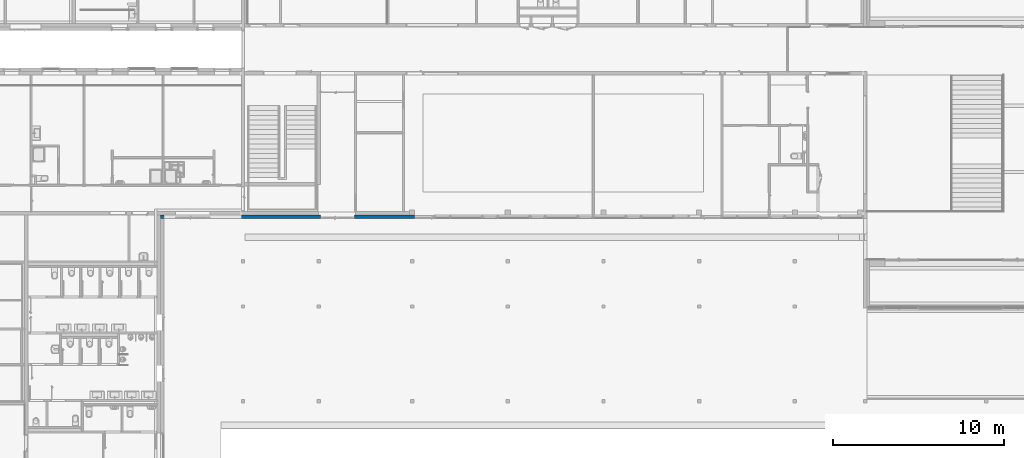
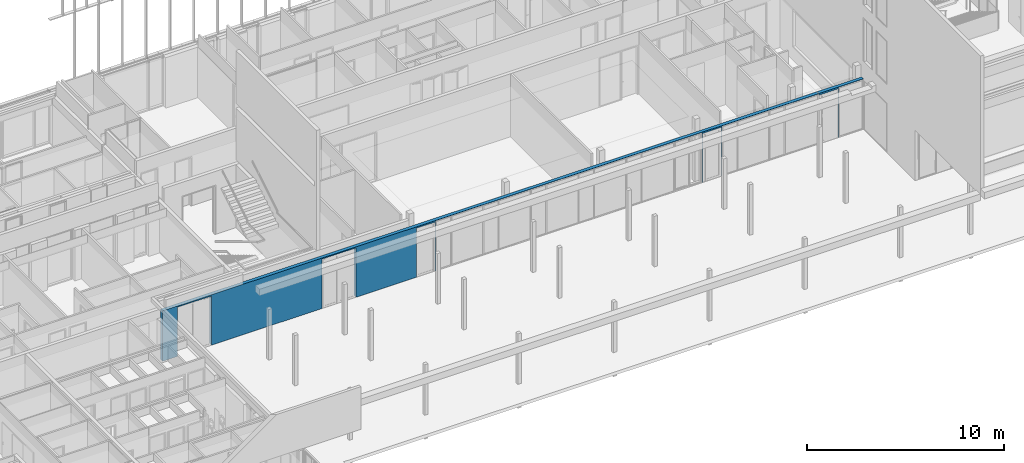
# One storey, part 127 of 240: 1 wall, 16 openings.
"""IFC2X3 building model written with IfcOpenShell, lengths in centimetres."""

from ifc_helpers import new_model, entity, si_unit, converted_unit, derived_unit, direction, frame, frame_2d, origin, origin_2d_with_axis, place, context, subcontext, project, spatial, rectangle, extrude, faceted_brep, material, layer, layer_set, layer_usage, type_object, element, save


model = new_model("IFC2X3")

# Units and contexts
model_context = context("Model", 3, precision=0.001, world=origin(), true_north=direction((6.12303176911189e-17, 1.0)))
body_context = subcontext(model_context, "Body", "Model", "MODEL_VIEW")
ifc_project = project(units=[si_unit("LENGTHUNIT", "METRE", prefix="CENTI"), si_unit("AREAUNIT", "SQUARE_METRE"), si_unit("VOLUMEUNIT", "CUBIC_METRE"), converted_unit("PLANEANGLEUNIT", "DEGREE", entity("IfcRatioMeasure", 0.0174532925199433), si_unit("PLANEANGLEUNIT", "RADIAN"), dimensions=[0, 0, 0, 0, 0, 0, 0]), si_unit("MASSUNIT", "GRAM", prefix="KILO"), derived_unit("MASSDENSITYUNIT", [(si_unit("MASSUNIT", "GRAM", prefix="KILO"), 1), (si_unit("LENGTHUNIT", "METRE"), -3)]), si_unit("TIMEUNIT", "SECOND"), si_unit("FREQUENCYUNIT", "HERTZ"), si_unit("THERMODYNAMICTEMPERATUREUNIT", "DEGREE_CELSIUS"), derived_unit("THERMALTRANSMITTANCEUNIT", [(si_unit("MASSUNIT", "GRAM", prefix="KILO"), 1), (si_unit("THERMODYNAMICTEMPERATUREUNIT", "KELVIN"), -1), (si_unit("TIMEUNIT", "SECOND"), -3)]), derived_unit("VOLUMETRICFLOWRATEUNIT", [(si_unit("LENGTHUNIT", "METRE"), 3), (si_unit("TIMEUNIT", "SECOND"), -1)]), si_unit("ELECTRICCURRENTUNIT", "AMPERE"), si_unit("ELECTRICVOLTAGEUNIT", "VOLT"), si_unit("POWERUNIT", "WATT"), si_unit("FORCEUNIT", "NEWTON", prefix="KILO"), si_unit("ILLUMINANCEUNIT", "LUX"), si_unit("LUMINOUSFLUXUNIT", "LUMEN"), si_unit("LUMINOUSINTENSITYUNIT", "CANDELA"), derived_unit("USERDEFINED", [(si_unit("MASSUNIT", "GRAM", prefix="KILO"), -1), (si_unit("LENGTHUNIT", "METRE"), -2), (si_unit("TIMEUNIT", "SECOND"), 3), (si_unit("LUMINOUSFLUXUNIT", "LUMEN"), 1)]), derived_unit("LINEARVELOCITYUNIT", [(si_unit("LENGTHUNIT", "METRE"), 1), (si_unit("TIMEUNIT", "SECOND"), -1)]), si_unit("PRESSUREUNIT", "PASCAL"), derived_unit("USERDEFINED", [(si_unit("LENGTHUNIT", "METRE"), -2), (si_unit("MASSUNIT", "GRAM", prefix="KILO"), 1), (si_unit("TIMEUNIT", "SECOND"), -2)])], contexts=[model_context])

# Site, building, storey
site_placement = place(None, frame((-2781.94577612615, 7442.24238424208, 0.0)))
site = spatial("IfcSite", under=ifc_project, at=site_placement, Name="Default", CompositionType="ELEMENT")
building_placement = place(site_placement, origin())
building = spatial("IfcBuilding", under=site, at=building_placement, CompositionType="ELEMENT")
storey_placement = place(building_placement, origin())
storey = spatial("IfcBuildingStorey", under=building, at=storey_placement, Name="N00 - COO", CompositionType="ELEMENT", Elevation=0.0)

# Wall, openings
ifc_material_1 = material(Name="Aluminium bardage")
ifc_layer_1 = layer(ifc_material_1, 0.5)
ifc_material_2 = material(Name="01 - Lame d'air")
ifc_layer_2 = layer(ifc_material_2, 1.5)
ifc_material_3 = material(Name="00 - Isolant")
ifc_layer_3 = layer(ifc_material_3, 18.0)
ifc_layer_set = layer_set([ifc_layer_1, ifc_layer_2, ifc_layer_3], Name="Mur de base:04 - Parement - ITE 18cm + vide 2cm")
ifc_layer_usage = layer_usage(ifc_layer_set, "AXIS2", "POSITIVE", -10.0)
wall_type = type_object("IfcWallType", Name="Mur de base:04 - Parement - ITE 18cm + vide 2cm", PredefinedType="STANDARD", material=ifc_layer_set)
wall_placement = place(building_placement, frame((-8901.93218005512, -1940.07903364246, 0.0)))
wall = element("IfcWallStandardCase", 1, at=wall_placement, inside=storey, type_object=wall_type, material=ifc_layer_usage, Name="Mur de base:04 - Parement - ITE 18cm + vide 2cm", ObjectType="Mur de base:04 - Parement - ITE 18cm + vide 2cm", context=body_context, shape_type="SweptSolid", body=[
    extrude(rectangle(XDim=4113.93230245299, YDim=20.0000000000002, at=frame_2d((2056.9661512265, -3.01980662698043e-14), x_axis=(-1.0, 0.0))), origin(), (0.0, 0.0, 1.0), 313.0),
])
opening_1_placement = place(wall_placement, origin())
element("IfcOpeningElement", 2, at=opening_1_placement, cuts=wall, Name="Mur de base:04 - Parement - ITE 18cm + vide 2cm", ObjectType="Opening", context=body_context, shape_type="SweptSolid", body=[
    extrude(rectangle(XDim=311.0, YDim=1565.0, at=frame_2d((4.54747350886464e-13, 0.0), x_axis=(0.0, 1.0))), frame((2384.93230242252, -25.2399999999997, 155.5), z_axis=(0.0, 1.0, 0.0), x_axis=(-1.0, 0.0, 0.0)), (0.0, 0.0, 1.0), 50.4799999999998),
])
opening_2_placement = place(wall_placement, origin())
element("IfcOpeningElement", 3, at=opening_2_placement, cuts=wall, Name="Mur de base:04 - Parement - ITE 18cm + vide 2cm", ObjectType="Opening", context=body_context, shape_type="SweptSolid", body=[
    extrude(rectangle(XDim=311.0, YDim=146.519999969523, at=frame_2d((4.33431068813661e-13, 0.0), x_axis=(0.0, 1.0))), frame((4040.67230246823, -25.2399999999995, 155.5), z_axis=(0.0, 1.0, 0.0), x_axis=(-1.0, 0.0, 0.0)), (0.0, 0.0, 1.0), 50.4799999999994),
])
opening_3_placement = place(wall_placement, origin())
element("IfcOpeningElement", 4, at=opening_3_placement, cuts=wall, Name="Mur de base:04 - Parement - ITE 18cm + vide 2cm", ObjectType="Opening", context=body_context, shape_type="SweptSolid", body=[
    extrude(rectangle(XDim=311.0, YDim=570.0, at=frame_2d((-8.5265128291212e-13, 0.0), x_axis=(0.0, 1.0))), frame((3567.43230245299, -25.2399999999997, 155.5), z_axis=(0.0, 1.0, 0.0), x_axis=(-1.0, 0.0, 0.0)), (0.0, 0.0, 1.0), 50.4799999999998),
])
opening_4_placement = place(wall_placement, frame((8901.93218005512, 1940.07903364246, 0.0)))
element("IfcOpeningElement", 5, at=opening_4_placement, cuts=wall, Name="Mur de base:04 - Parement - ITE 18cm + vide 2cm", ObjectType="Opening", context=body_context, shape_type="SweptSolid", body=[
    extrude(rectangle(XDim=321.0, YDim=200.0, at=origin_2d_with_axis()), frame((-8713.98738089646, -1950.17903364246, 144.5), z_axis=(0.0, 1.0, 0.0), x_axis=(0.0, 0.0, -1.0)), (0.0, 0.0, 1.0), 60.117531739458),
])
opening_5_placement = place(wall_placement, frame((8901.93218005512, 1940.07903364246, 0.0)))
element("IfcOpeningElement", 6, at=opening_5_placement, cuts=wall, Name="Mur de base:04 - Parement - ITE 18cm + vide 2cm", ObjectType="Opening", context=body_context, shape_type="SweptSolid", body=[
    extrude(rectangle(XDim=321.0, YDim=200.0, at=origin_2d_with_axis()), frame((-7866.49987760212, -1950.17903364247, 145.5), z_axis=(0.0, 1.0, 0.0), x_axis=(0.0, 0.0, -1.0)), (0.0, 0.0, 1.0), 60.117531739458),
])
opening_6_placement = place(wall_placement, frame((3852.43230245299, -10.1000000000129, -16.0)))
element("IfcOpeningElement", 7, at=opening_6_placement, cuts=wall, Name="Mur de base:04 - Parement - ITE 18cm + vide 2cm", ObjectType="Opening", context=body_context, shape_type="Brep", body=[
    faceted_brep([(2.0, 0.0, 319.0), (2.0, 0.0, 0.0), (113.0, 0.0, 0.0), (113.0, 0.0, 319.0), (2.0, 1.30000000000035, 319.0), (2.0, 1.30000000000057, 0.0), (0.0, 1.30000000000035, 0.0), (0.0, 61.3000000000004, 0.0), (115.0, 61.3000000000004, 0.0), (115.0, 1.30000000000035, 0.0), (113.0, 1.30000000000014, 0.0), (113.0, 1.30000000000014, 319.0), (115.0, 61.3000000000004, 321.0), (0.0, 61.3000000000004, 321.0), (115.0, 1.30000000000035, 321.0), (0.0, 1.30000000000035, 321.0)], [[[0, 1, 2, 3]], [[1, 0, 4, 5]], [[2, 1, 5, 6, 7, 8, 9, 10]], [[3, 2, 10, 11]], [[0, 3, 11, 4]], [[12, 8, 7, 13]], [[14, 15, 6, 5, 4, 11, 10, 9]], [[8, 12, 14, 9]], [[13, 7, 6, 15]], [[12, 13, 15, 14]]]),
])
opening_7_placement = place(wall_placement, frame((1487.43213839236, -10.1000000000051, -15.0)))
element("IfcOpeningElement", 8, at=opening_7_placement, cuts=wall, Name="Mur de base:04 - Parement - ITE 18cm + vide 2cm", ObjectType="Opening", context=body_context, shape_type="Brep", body=[
    faceted_brep([(113.0, 0.0, 319.0), (2.0, 0.0, 319.0), (2.0, 0.0, 0.0), (113.0, 0.0, 0.0), (113.0, 1.29999999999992, 0.0), (113.0, 1.30000000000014, 319.0), (2.0, 1.30000000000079, 0.0), (0.0, 1.30000000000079, 0.0), (0.0, 61.3000000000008, 0.0), (115.0, 61.2999999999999, 0.0), (115.0, 1.30000000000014, 0.0), (2.0, 1.30000000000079, 319.0), (0.0, 61.3000000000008, 321.0), (115.0, 61.3000000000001, 321.0), (0.0, 1.30000000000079, 321.0), (115.0, 1.30000000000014, 321.0)], [[[0, 1, 2, 3]], [[3, 4, 5, 0]], [[2, 6, 7, 8, 9, 10, 4, 3]], [[1, 11, 6, 2]], [[0, 5, 11, 1]], [[12, 13, 9, 8]], [[14, 7, 6, 11, 5, 4, 10, 15]], [[8, 7, 14, 12]], [[13, 15, 10, 9]], [[12, 14, 15, 13]]]),
])
opening_8_placement = place(wall_placement, frame((3167.43230242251, -10.1000000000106, -15.0)))
element("IfcOpeningElement", 9, at=opening_8_placement, cuts=wall, Name="Mur de base:04 - Parement - ITE 18cm + vide 2cm", ObjectType="Opening", context=body_context, shape_type="Brep", body=[
    faceted_brep([(2.0, 0.0, 319.0), (2.0, 0.0, 0.0), (113.0, 0.0, 0.0), (113.0, 0.0, 319.0), (2.0, 1.30000000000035, 319.0), (2.0, 1.30000000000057, 0.0), (0.0, 1.30000000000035, 0.0), (0.0, 61.3000000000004, 0.0), (115.0, 61.3000000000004, 0.0), (115.0, 1.30000000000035, 0.0), (113.0, 1.30000000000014, 0.0), (113.0, 1.30000000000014, 319.0), (115.0, 61.3000000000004, 321.0), (0.0, 61.3000000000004, 321.0), (115.0, 1.30000000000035, 321.0), (0.0, 1.30000000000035, 321.0)], [[[0, 1, 2, 3]], [[1, 0, 4, 5]], [[2, 1, 5, 6, 7, 8, 9, 10]], [[3, 2, 10, 11]], [[0, 3, 11, 4]], [[12, 8, 7, 13]], [[14, 15, 6, 5, 4, 11, 10, 9]], [[8, 12, 14, 9]], [[13, 7, 6, 15]], [[12, 13, 15, 14]]]),
])
opening_9_placement = place(wall_placement, frame((1692.43230242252, 10.0, 6.5)))
element("IfcOpeningElement", 10, at=opening_9_placement, cuts=wall, Name="Ouvrant vitré:Ouvrant vitré (90cm) RDC:1", ObjectType="Opening", context=body_context, shape_type="SweptSolid", body=[
    extrude(rectangle(XDim=299.5, YDim=83.5000000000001, at=frame_2d((149.75, 41.75), x_axis=(1.0, 0.0))), frame((0.0, 0.0, 0.0), z_axis=(0.0, -1.0, 0.0), x_axis=(0.0, 0.0, 1.0)), (0.0, 0.0, 1.0), 20.0),
])
opening_10_placement = place(wall_placement, frame((1969.18230245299, 10.0, 6.5)))
element("IfcOpeningElement", 11, at=opening_10_placement, cuts=wall, Name="Ouvrant vitré:Ouvrant vitré (90cm) RDC:1", ObjectType="Opening", context=body_context, shape_type="SweptSolid", body=[
    extrude(rectangle(XDim=299.5, YDim=83.5000000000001, at=frame_2d((149.75, 41.75), x_axis=(1.0, 0.0))), frame((0.0, 0.0, 0.0), z_axis=(0.0, -1.0, 0.0), x_axis=(0.0, 0.0, 1.0)), (0.0, 0.0, 1.0), 20.0),
])
opening_11_placement = place(wall_placement, frame((2249.18230245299, 10.0, 6.5)))
element("IfcOpeningElement", 12, at=opening_11_placement, cuts=wall, Name="Ouvrant vitré:Ouvrant vitré (90cm) RDC:1", ObjectType="Opening", context=body_context, shape_type="SweptSolid", body=[
    extrude(rectangle(XDim=299.5, YDim=83.5000000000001, at=frame_2d((149.75, 41.75), x_axis=(1.0, 0.0))), frame((0.0, 0.0, 0.0), z_axis=(0.0, -1.0, 0.0), x_axis=(0.0, 0.0, 1.0)), (0.0, 0.0, 1.0), 20.0),
])
opening_12_placement = place(wall_placement, frame((2529.18230245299, 10.0, 6.5)))
element("IfcOpeningElement", 13, at=opening_12_placement, cuts=wall, Name="Ouvrant vitré:Ouvrant vitré (90cm) RDC:1", ObjectType="Opening", context=body_context, shape_type="SweptSolid", body=[
    extrude(rectangle(XDim=299.5, YDim=83.5000000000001, at=frame_2d((149.75, 41.75), x_axis=(1.0, 0.0))), frame((0.0, 0.0, 0.0), z_axis=(0.0, -1.0, 0.0), x_axis=(0.0, 0.0, 1.0)), (0.0, 0.0, 1.0), 20.0),
])
opening_13_placement = place(wall_placement, frame((2809.18230245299, 10.0, 6.5)))
element("IfcOpeningElement", 14, at=opening_13_placement, cuts=wall, Name="Ouvrant vitré:Ouvrant vitré (90cm) RDC:1", ObjectType="Opening", context=body_context, shape_type="SweptSolid", body=[
    extrude(rectangle(XDim=299.5, YDim=83.5000000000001, at=frame_2d((149.75, 41.75), x_axis=(1.0, 0.0))), frame((0.0, 0.0, 0.0), z_axis=(0.0, -1.0, 0.0), x_axis=(0.0, 0.0, 1.0)), (0.0, 0.0, 1.0), 20.0),
])
opening_14_placement = place(wall_placement, frame((3089.18230245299, 10.0, 6.5)))
element("IfcOpeningElement", 15, at=opening_14_placement, cuts=wall, Name="Ouvrant vitré:Ouvrant vitré (90cm) RDC:1", ObjectType="Opening", context=body_context, shape_type="SweptSolid", body=[
    extrude(rectangle(XDim=299.5, YDim=83.5000000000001, at=frame_2d((149.75, 41.75), x_axis=(1.0, 0.0))), frame((0.0, 0.0, 0.0), z_axis=(0.0, -1.0, 0.0), x_axis=(0.0, 0.0, 1.0)), (0.0, 0.0, 1.0), 20.0),
])
opening_15_placement = place(wall_placement, frame((3372.43230245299, 10.0, 6.5)))
element("IfcOpeningElement", 16, at=opening_15_placement, cuts=wall, Name="Ouvrant vitré:Ouvrant vitré (90cm) RDC:1", ObjectType="Opening", context=body_context, shape_type="SweptSolid", body=[
    extrude(rectangle(XDim=299.5, YDim=83.5000000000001, at=frame_2d((149.75, 41.75), x_axis=(1.0, 0.0))), frame((0.0, 0.0, 0.0), z_axis=(0.0, -1.0, 0.0), x_axis=(0.0, 0.0, 1.0)), (0.0, 0.0, 1.0), 20.0),
])
opening_16_placement = place(wall_placement, frame((3649.18230248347, 10.0, 6.5)))
element("IfcOpeningElement", 17, at=opening_16_placement, cuts=wall, Name="Ouvrant vitré:Ouvrant vitré (90cm) RDC:1", ObjectType="Opening", context=body_context, shape_type="SweptSolid", body=[
    extrude(rectangle(XDim=299.5, YDim=83.5000000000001, at=frame_2d((149.75, 41.75), x_axis=(1.0, 0.0))), frame((0.0, 0.0, 0.0), z_axis=(0.0, -1.0, 0.0), x_axis=(0.0, 0.0, 1.0)), (0.0, 0.0, 1.0), 20.0),
])

save(model, "model.ifc")
